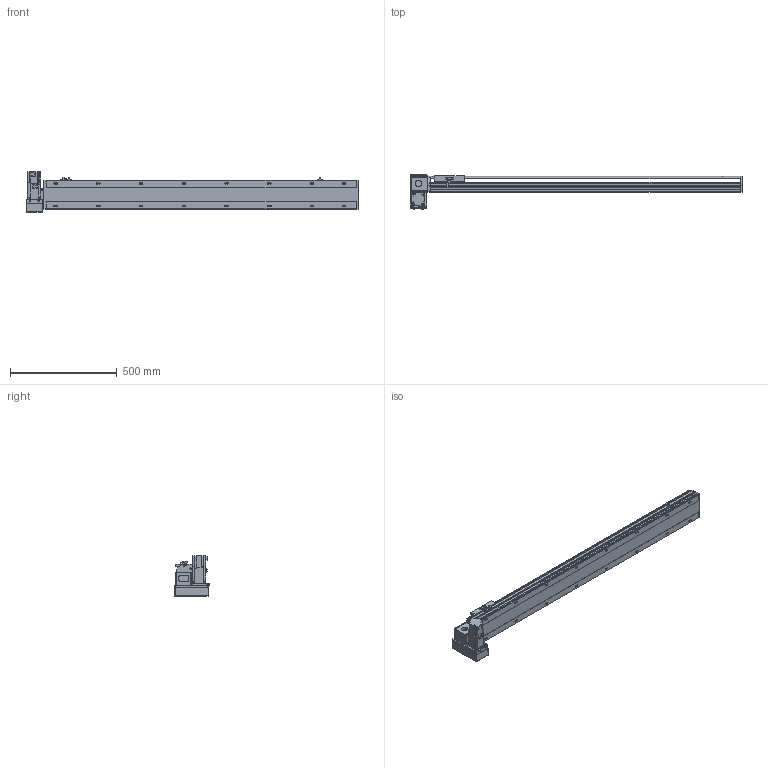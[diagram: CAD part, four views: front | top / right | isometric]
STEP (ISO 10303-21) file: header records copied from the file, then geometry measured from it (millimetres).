
FILE_DESCRIPTION( ( 'STEP AP214' ), '1' );
FILE_NAME( 'x:/temp/worker_27/temp/exporttempdir_6708_565_abRfi/format_0/PBS140-P40-S1200-LD-T40-C1-N(0).stp', '2022-06-06T05:54:04', ( 'License CC BY-ND 4.0' ), ( 'CADENAS' ), ' ', 'PARTsolutions', ' ' );
FILE_SCHEMA( ( 'AUTOMOTIVE_DESIGN { 1 0 10303 214 1 1 1 1 }' ) );
Length unit declared in the file: millimetre
Products named in the file (7): PBS140-P40-S1200-LD-T40-C1-N(0); _PBS140-S1200()_body; _PBS140T-LD_motors; _T40-p1; _PBS140_sliser; _PBS140_plant; _PBS140_sensor
Assembly tree (8 placements, depth 2):
  PBS140-P40-S1200-LD-T40-C1-N(0)
    _PBS140-S1200()_body
    _PBS140T-LD_motors
    _T40-p1
    _PBS140_sliser
    _PBS140_plant
    _PBS140_sensor  x3
Bounding box: 1554 x 162 x 189.7 mm (x, y, z)
Volume: 7351711.3 mm3; surface area: 1278224.5 mm2
Topology: 8 solids, 8 shells, 1075 faces, 2836 edges, 1853 vertices
Faces by surface type: plane 692, cylinder 331, cone 42, sphere 8, torus 2
Full cylindrical faces by diameter (mm): 3.242 x4, 4 x2, 4.134 x4, 4.4 x8, 4.5 x2, 4.8 x4, 4.917 x24, 5.5 x7, 6 x2, 7 x18, 7.5 x8, 8 x12, 8.5 x4, 10.5 x16, 14 x1, 30 x2, 50 x2
Entity records: 39289 total; most frequent: CARTESIAN_POINT 6251, DIRECTION 5197, ORIENTED_EDGE 4912, EDGE_CURVE 2456, AXIS2_PLACEMENT_3D 1807, VERTEX_POINT 1701, LINE 1583, VECTOR 1583
